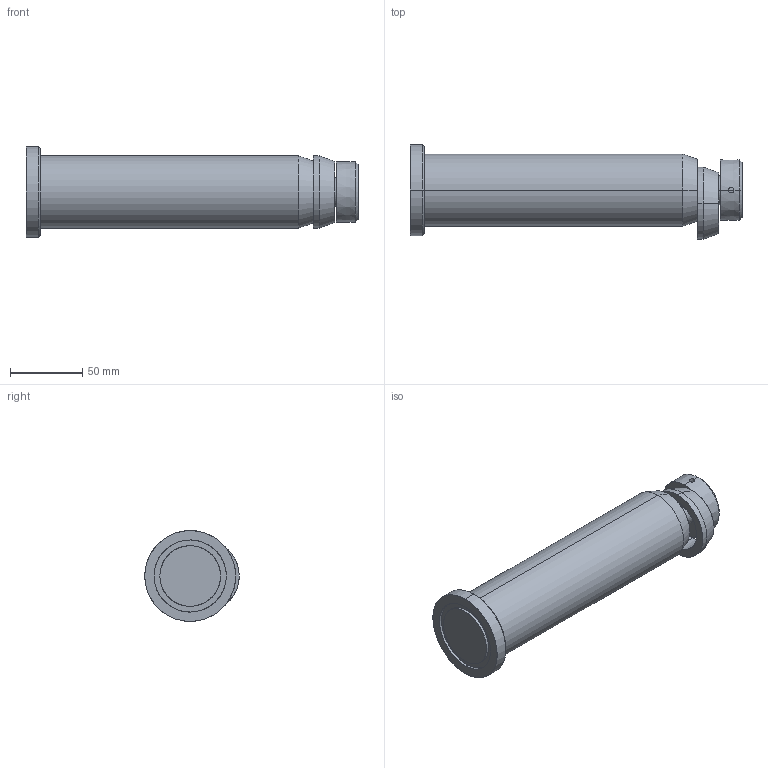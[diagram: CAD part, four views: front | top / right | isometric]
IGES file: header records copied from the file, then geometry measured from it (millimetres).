
Start section: START RECORD GO HERE.
Global section: file name: 395X-050-190.igs; native system: DASSAULT SYSTEMES CATIA V5 R20 - www.3ds.com; preprocessor: CATIA Version 5 Release 20 ; author: Utente; organization: NB04-ASUS; date: 20200410.171211; units: millimetre
Bounding box: 230 x 65.5 x 63 mm (x, y, z)
Surface area: 49982.3 mm2 (no closed solid volume)
Topology: 0 solids, 0 shells, 42 faces, 182 edges, 182 vertices
Faces by surface type: revolution 32, extrusion 10
